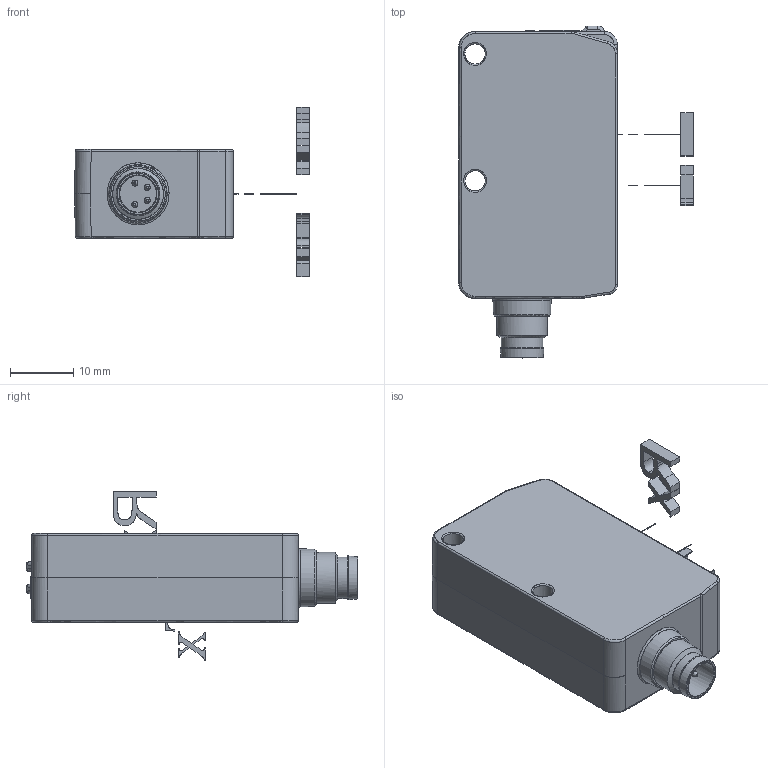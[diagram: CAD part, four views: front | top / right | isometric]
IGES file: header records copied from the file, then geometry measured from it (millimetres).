
Start section: JAMA-IS VERSION  1.0
Global section: file name: D:\CS\IDF\TESTPCB\DSD-0203.igs; native system: NX V12.0; preprocessor: SIEMENS PLM Software NX 12.0; date: 200922.142127; units: millimetre
Bounding box: 37 x 52.3 x 26.68 mm (x, y, z)
Surface area: 5124.9 mm2 (no closed solid volume)
Topology: 0 solids, 0 shells, 461 faces, 2719 edges, 2665 vertices
Faces by surface type: bspline 461
